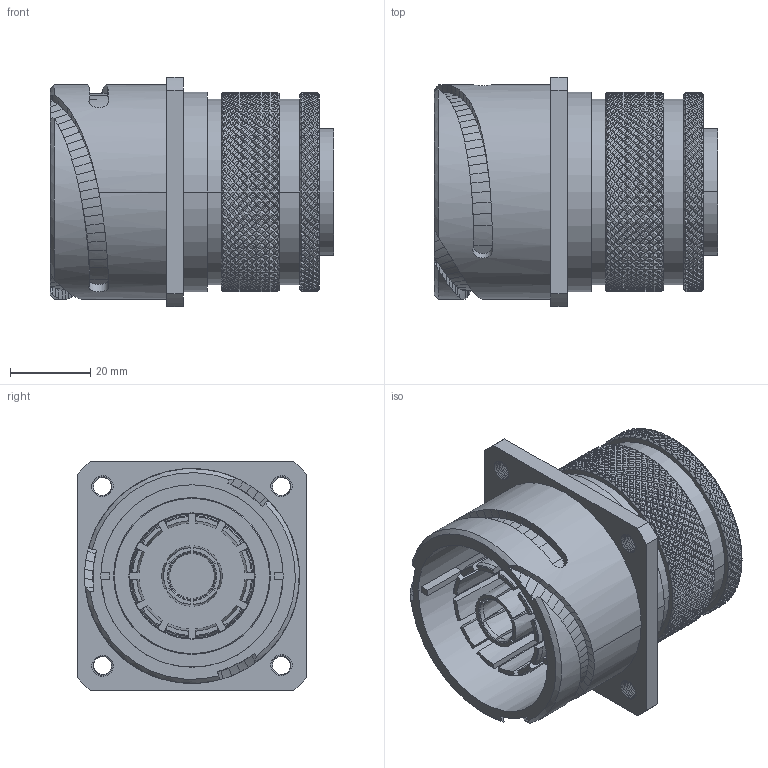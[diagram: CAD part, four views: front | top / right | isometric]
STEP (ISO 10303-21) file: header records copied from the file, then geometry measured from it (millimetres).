
FILE_DESCRIPTION((''),'2;1');
FILE_NAME('GCE3100E32M240S-B-T3_SW0001','2023-06-01T09:16:04',('paultorloting'),('NET AG system integration'),'CREO PARAMETRIC BY PTC INC, 2021404','CREO PARAMETRIC BY PTC INC, 2021404','');
FILE_SCHEMA(('AUTOMOTIVE_DESIGN { 1 0 10303 214 1 1 1 1 }'));
Products named in the file (1): GCE3100E32M240S-B-T3_SW0001
Bounding box: 70.45 x 57 x 57 mm (x, y, z)
Volume: 100433.2 mm3; surface area: 30105.8 mm2
Topology: 1 solids, 1 shells, 11021 faces, 24564 edges, 13584 vertices
Faces by surface type: bspline 6058, plane 3201, cylinder 1357, extrusion 298, cone 71, torus 36
Entity records: 479983 total; most frequent: CARTESIAN_POINT 224313, ORIENTED_EDGE 49128, EDGE_CURVE 24564, B_SPLINE_CURVE_WITH_KNOTS 20956, DIRECTION 14047, VERTEX_POINT 13584, EDGE_LOOP 11068, PRESENTATION_STYLE_ASSIGNMENT 11045
